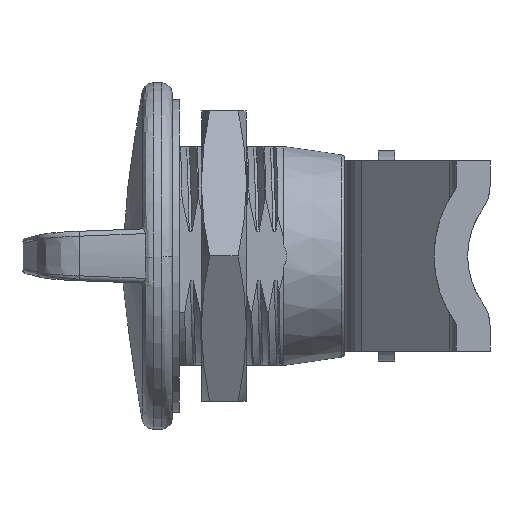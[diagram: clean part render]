
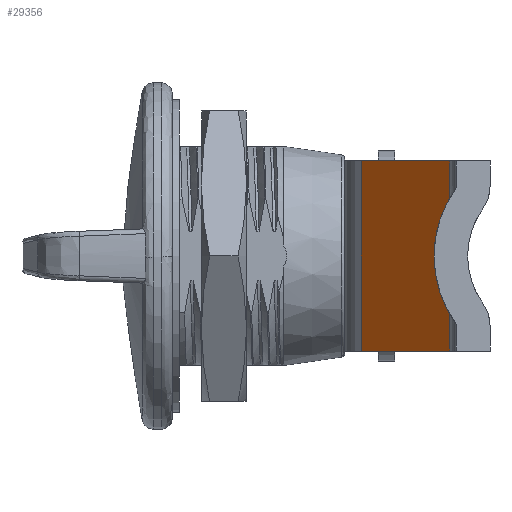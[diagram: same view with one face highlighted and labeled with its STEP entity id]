
A CAD part, left-side view. The second image highlights one B-rep face of the part: STEP entity #29356.
In plain terms, the highlighted planar face has unit normal (-0.707, 0.707, 0) as drawn and (0.707, -0.707, 0) by its records, which use the part's own axes.
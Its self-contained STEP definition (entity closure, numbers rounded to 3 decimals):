
#351 = CARTESIAN_POINT ( 'NONE',  ( 16.464, 1.464, -8.5 ) ) ;
#367 = CARTESIAN_POINT ( 'NONE',  ( 24.414, 9.414, 8.5 ) ) ;
#629 = DIRECTION ( 'NONE',  ( 0., 0., 1. ) ) ;
#1271 = EDGE_CURVE ( 'NONE', #21779, #19453, #24865, .T. ) ;
#3697 = DIRECTION ( 'NONE',  ( 0.707, 0.707, 0. ) ) ;
#3959 = EDGE_CURVE ( 'NONE', #14261, #6893, #17655, .T. ) ;
#5855 = LINE ( 'NONE', #17855, #34819 ) ;
#5913 = VERTEX_POINT ( 'NONE', #18583 ) ;
#6230 = PLANE ( 'NONE',  #19834 ) ;
#6846 = VERTEX_POINT ( 'NONE', #11235 ) ;
#6893 = VERTEX_POINT ( 'NONE', #24408 ) ;
#6971 = VECTOR ( 'NONE', #629, 1000. ) ;
#7112 = DIRECTION ( 'NONE',  ( -0.707, -0.707, 0. ) ) ;
#7658 = CARTESIAN_POINT ( 'NONE',  ( 22.481, 7.481, 1.907 ) ) ;
#9912 = DIRECTION ( 'NONE',  ( 0., 0., 1. ) ) ;
#10458 = ORIENTED_EDGE ( 'NONE', *, *, #15831, .F. ) ;
#11053 = VECTOR ( 'NONE', #17455, 1000. ) ;
#11235 = CARTESIAN_POINT ( 'NONE',  ( 24.414, 9.414, 5.195 ) ) ;
#12561 = DIRECTION ( 'NONE',  ( 0., 0., 1. ) ) ;
#14155 = EDGE_LOOP ( 'NONE', ( #37253, #15985, #15909, #33922, #10458, #25648 ) ) ;
#14261 = VERTEX_POINT ( 'NONE', #16218 ) ;
#14947 = LINE ( 'NONE', #27618, #6971 ) ;
#15831 = EDGE_CURVE ( 'NONE', #14261, #19453, #5855, .T. ) ;
#15909 = ORIENTED_EDGE ( 'NONE', *, *, #22470, .T. ) ;
#15976 = CARTESIAN_POINT ( 'NONE',  ( 16.464, 1.464, 8.5 ) ) ;
#15985 = ORIENTED_EDGE ( 'NONE', *, *, #19491, .T. ) ;
#16218 = CARTESIAN_POINT ( 'NONE',  ( 16.464, 1.464, -8.5 ) ) ;
#16292 = VECTOR ( 'NONE', #9912, 1000. ) ;
#17455 = DIRECTION ( 'NONE',  ( 0.707, 0.707, 0. ) ) ;
#17655 = LINE ( 'NONE', #35131, #11053 ) ;
#17855 = CARTESIAN_POINT ( 'NONE',  ( 16.464, 1.464, -8.5 ) ) ;
#18583 = CARTESIAN_POINT ( 'NONE',  ( 24.414, 9.414, -5.195 ) ) ;
#19453 = VERTEX_POINT ( 'NONE', #26289 ) ;
#19491 = EDGE_CURVE ( 'NONE', #5913, #6846, #38444, .T. ) ;
#19834 = AXIS2_PLACEMENT_3D ( 'NONE', #351, #33375, #3697 ) ;
#20991 = FACE_OUTER_BOUND ( 'NONE', #14155, .T. ) ;
#21705 = LINE ( 'NONE', #36981, #16292 ) ;
#21779 = VERTEX_POINT ( 'NONE', #367 ) ;
#22470 = EDGE_CURVE ( 'NONE', #6846, #21779, #14947, .T. ) ;
#24408 = CARTESIAN_POINT ( 'NONE',  ( 24.414, 9.414, -8.5 ) ) ;
#24865 = LINE ( 'NONE', #15976, #33085 ) ;
#25648 = ORIENTED_EDGE ( 'NONE', *, *, #3959, .T. ) ;
#26289 = CARTESIAN_POINT ( 'NONE',  ( 16.464, 1.464, 8.5 ) ) ;
#26394 = CARTESIAN_POINT ( 'NONE',  ( 24.414, 9.414, 5.195 ) ) ;
#27618 = CARTESIAN_POINT ( 'NONE',  ( 24.414, 9.414, -8.5 ) ) ;
#28963 = CARTESIAN_POINT ( 'NONE',  ( 24.414, 9.414, -5.195 ) ) ;
#29356 = ADVANCED_FACE ( 'NONE', ( #20991 ), #6230, .T. ) ;
#33085 = VECTOR ( 'NONE', #7112, 1000. ) ;
#33091 = EDGE_CURVE ( 'NONE', #6893, #5913, #21705, .T. ) ;
#33375 = DIRECTION ( 'NONE',  ( 0.707, -0.707, 0. ) ) ;
#33922 = ORIENTED_EDGE ( 'NONE', *, *, #1271, .T. ) ;
#34589 = CARTESIAN_POINT ( 'NONE',  ( 22.481, 7.481, -1.907 ) ) ;
#34819 = VECTOR ( 'NONE', #12561, 1000. ) ;
#35131 = CARTESIAN_POINT ( 'NONE',  ( 16.464, 1.464, -8.5 ) ) ;
#36981 = CARTESIAN_POINT ( 'NONE',  ( 24.414, 9.414, -8.5 ) ) ;
#37253 = ORIENTED_EDGE ( 'NONE', *, *, #33091, .T. ) ;
#38444 =( BOUNDED_CURVE ( )  B_SPLINE_CURVE ( 3, ( #28963, #34589, #7658, #26394 ),
 .UNSPECIFIED., .F., .T. ) 
 B_SPLINE_CURVE_WITH_KNOTS ( ( 4, 4 ),
 ( 2.61, 3.673 ),
 .UNSPECIFIED. ) 
 CURVE ( )  GEOMETRIC_REPRESENTATION_ITEM ( )  RATIONAL_B_SPLINE_CURVE ( ( 1., 0.908, 0.908, 1. ) ) 
 REPRESENTATION_ITEM ( '' )  );
